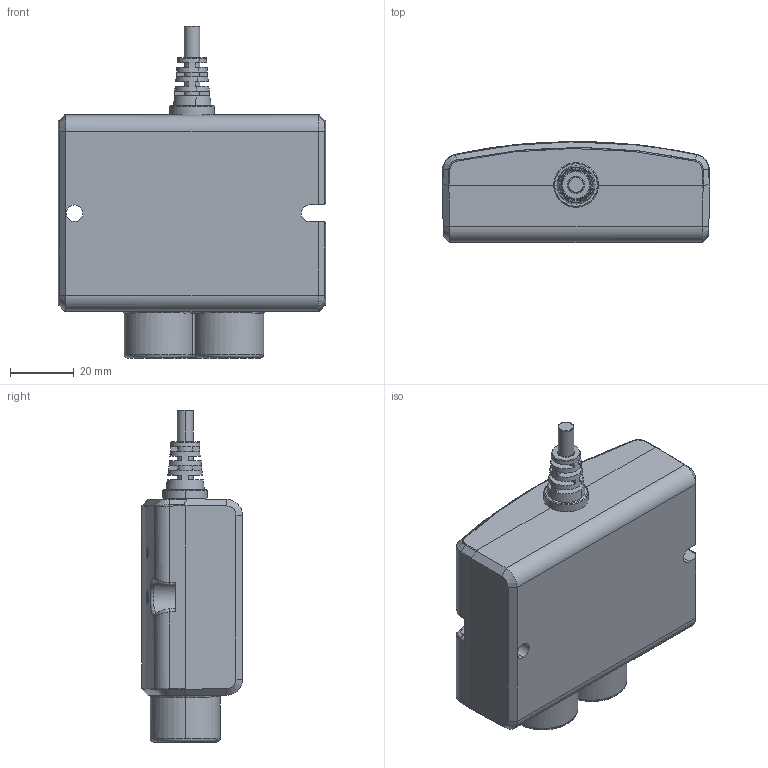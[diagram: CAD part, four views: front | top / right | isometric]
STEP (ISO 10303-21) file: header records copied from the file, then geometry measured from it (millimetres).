
FILE_DESCRIPTION (( 'STEP AP203' ), '1' );
FILE_NAME ('TRF.STEP', '2014-01-16T03:53:34', ( 'stanley' ), ( '' ), 'SwSTEP 2.0', 'SolidWorks 2010', '' );
FILE_SCHEMA (( 'CONFIG_CONTROL_DESIGN' ));
Length unit declared in the file: millimetre
Products named in the file (1): TRF
Bounding box: 84 x 31.71 x 104.37 mm (x, y, z)
Volume: 162999.3 mm3; surface area: 21814.8 mm2
Topology: 1 solids, 2 shells, 194 faces, 484 edges, 297 vertices
Faces by surface type: plane 75, cylinder 53, bspline 44, torus 15, cone 5, sphere 2
Entity records: 12373 total; most frequent: CARTESIAN_POINT 8109, ORIENTED_EDGE 960, DIRECTION 761, EDGE_CURVE 480, AXIS2_PLACEMENT_3D 302, VERTEX_POINT 295, EDGE_LOOP 201, FACE_OUTER_BOUND 194
